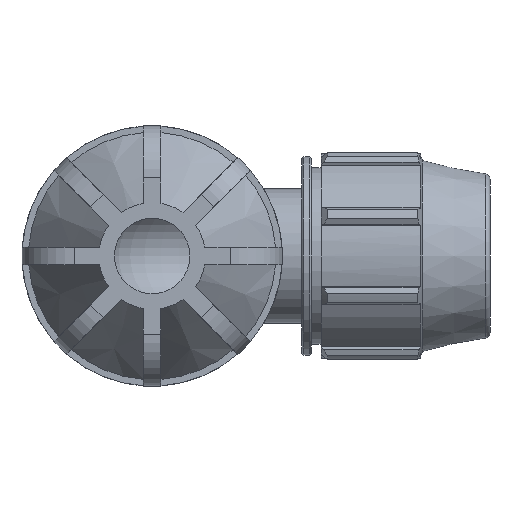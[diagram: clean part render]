
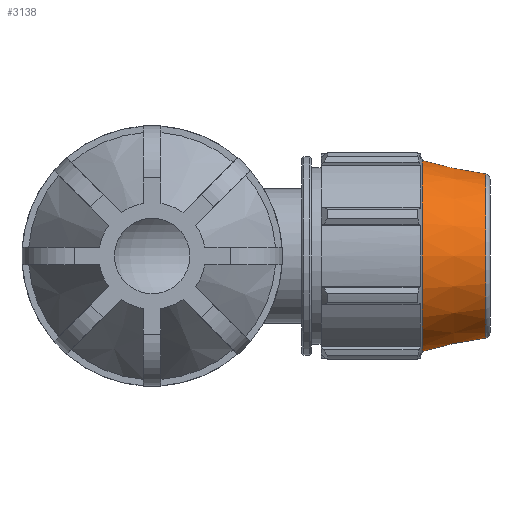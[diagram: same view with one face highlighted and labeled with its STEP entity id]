
A CAD part, front view. The second image highlights one B-rep face of the part: STEP entity #3138.
In plain terms, the highlighted conical face has half-angle 12 degrees and reference radius 21.715 mm.
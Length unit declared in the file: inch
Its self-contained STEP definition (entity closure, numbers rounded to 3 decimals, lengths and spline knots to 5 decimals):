
#72=CONICAL_SURFACE('',#3409,0.85494,0.209);
#247=FACE_OUTER_BOUND('',#411,.T.);
#411=EDGE_LOOP('',(#2313,#2314,#2315,#2316,#2317,#2318,#2319));
#620=LINE('',#5037,#862);
#862=VECTOR('',#3996,0.85494);
#1067=CIRCLE('',#3368,0.92445);
#1068=CIRCLE('',#3369,0.92445);
#1088=CIRCLE('',#3405,0.79425);
#1089=CIRCLE('',#3406,0.79425);
#1090=CIRCLE('',#3407,0.79425);
#1303=VERTEX_POINT('',#4916);
#1304=VERTEX_POINT('',#4917);
#1329=VERTEX_POINT('',#5028);
#1330=VERTEX_POINT('',#5030);
#1331=VERTEX_POINT('',#5032);
#1651=EDGE_CURVE('',#1303,#1304,#1067,.T.);
#1652=EDGE_CURVE('',#1304,#1303,#1068,.T.);
#1708=EDGE_CURVE('',#1329,#1330,#1088,.T.);
#1709=EDGE_CURVE('',#1330,#1331,#1089,.T.);
#1710=EDGE_CURVE('',#1331,#1329,#1090,.T.);
#1712=EDGE_CURVE('',#1330,#1304,#620,.T.);
#2313=ORIENTED_EDGE('',*,*,#1710,.F.);
#2314=ORIENTED_EDGE('',*,*,#1709,.F.);
#2315=ORIENTED_EDGE('',*,*,#1712,.T.);
#2316=ORIENTED_EDGE('',*,*,#1652,.T.);
#2317=ORIENTED_EDGE('',*,*,#1651,.T.);
#2318=ORIENTED_EDGE('',*,*,#1712,.F.);
#2319=ORIENTED_EDGE('',*,*,#1708,.F.);
#3138=ADVANCED_FACE('',(#247),#72,.T.);
#3368=AXIS2_PLACEMENT_3D('',#4918,#3883,#3884);
#3369=AXIS2_PLACEMENT_3D('',#4919,#3885,#3886);
#3405=AXIS2_PLACEMENT_3D('',#5031,#3986,#3987);
#3406=AXIS2_PLACEMENT_3D('',#5033,#3988,#3989);
#3407=AXIS2_PLACEMENT_3D('',#5034,#3990,#3991);
#3409=AXIS2_PLACEMENT_3D('',#5036,#3994,#3995);
#3883=DIRECTION('center_axis',(1.,0.,0.));
#3884=DIRECTION('ref_axis',(0.,0.,-1.));
#3885=DIRECTION('center_axis',(1.,0.,0.));
#3886=DIRECTION('ref_axis',(0.,0.,-1.));
#3986=DIRECTION('center_axis',(1.,0.,0.));
#3987=DIRECTION('ref_axis',(0.,-1.,0.));
#3988=DIRECTION('center_axis',(1.,0.,0.));
#3989=DIRECTION('ref_axis',(0.,-1.,0.));
#3990=DIRECTION('center_axis',(1.,0.,0.));
#3991=DIRECTION('ref_axis',(0.,-1.,0.));
#3994=DIRECTION('center_axis',(-1.,0.,0.));
#3995=DIRECTION('ref_axis',(0.,1.,0.));
#3996=DIRECTION('',(-0.978,-0.208,0.));
#4916=CARTESIAN_POINT('',(2.616,0.92445,0.));
#4917=CARTESIAN_POINT('',(2.616,-0.92445,0.));
#4918=CARTESIAN_POINT('Origin',(2.616,0.,0.));
#4919=CARTESIAN_POINT('Origin',(2.616,0.,0.));
#5028=CARTESIAN_POINT('',(3.22852,0.,0.79425));
#5030=CARTESIAN_POINT('',(3.22852,-0.79425,0.));
#5031=CARTESIAN_POINT('Origin',(3.22852,0.,0.));
#5032=CARTESIAN_POINT('',(3.22852,0.79425,0.));
#5033=CARTESIAN_POINT('Origin',(3.22852,0.,0.));
#5034=CARTESIAN_POINT('Origin',(3.22852,0.,0.));
#5036=CARTESIAN_POINT('Origin',(2.943,0.,0.));
#5037=CARTESIAN_POINT('',(2.943,-0.85494,0.));
